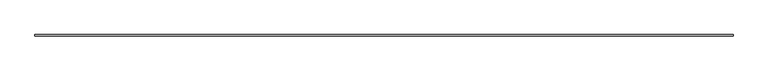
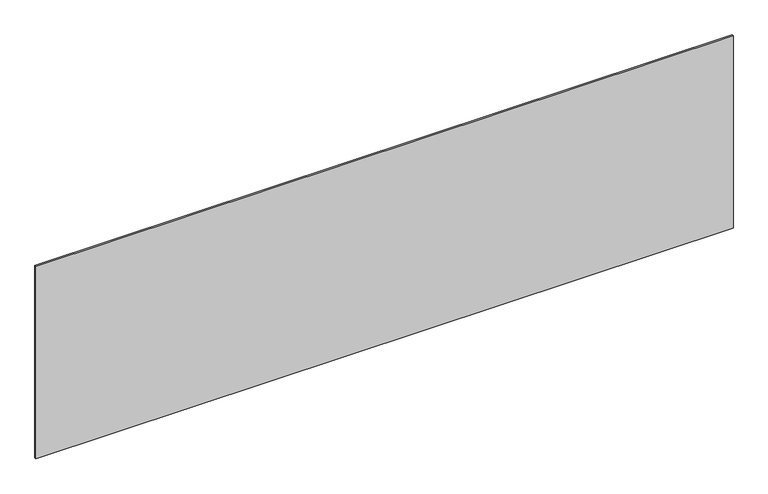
"""IFC4 building model written with IfcOpenShell, lengths in millimetres: plate geometry, システム パネル : 標準."""

from ifc_helpers import new_model, si_unit, origin, origin_with_axes, place, context, project, spatial, polyline, outline, extrude, source, transform, mapped, element, save


def plate_af152b64(model_context):
    return source(origin(), model_context, "Body", "SweptSolid", [
        extrude(outline(polyline([(2281.6666667, -5.0), (-2281.6666667, -5.0), (-2281.6666667, 5.0), (2281.6666667, 5.0), (2281.6666667, -5.0)])), origin_with_axes(), (0.0, 0.0, 1.0), 1331.9755531),
    ])


if __name__ == "__main__":
    model = new_model("IFC4")
    model_context = context("Model", 3, world=origin())
    ifc_project = project(units=[si_unit("LENGTHUNIT", "METRE", prefix="MILLI")], contexts=[model_context])
    site = spatial("IfcSite", under=ifc_project)
    building = spatial("IfcBuilding", under=site)
    placement = place(None, origin())
    plate_shape = plate_af152b64(model_context)
    element("IfcPlate", 1, ObjectType="システム パネル : 標準", at=placement, inside=building, context=model_context, shape_type="MappedRepresentation", body=[
        mapped(plate_shape, transform((0.0, 0.0, 0.0), x_axis=(1.0, 0.0, 0.0), y_axis=(0.0, 1.0, 0.0), z_axis=(0.0, 0.0, 1.0))),
    ])
    save(model, "model.ifc")
